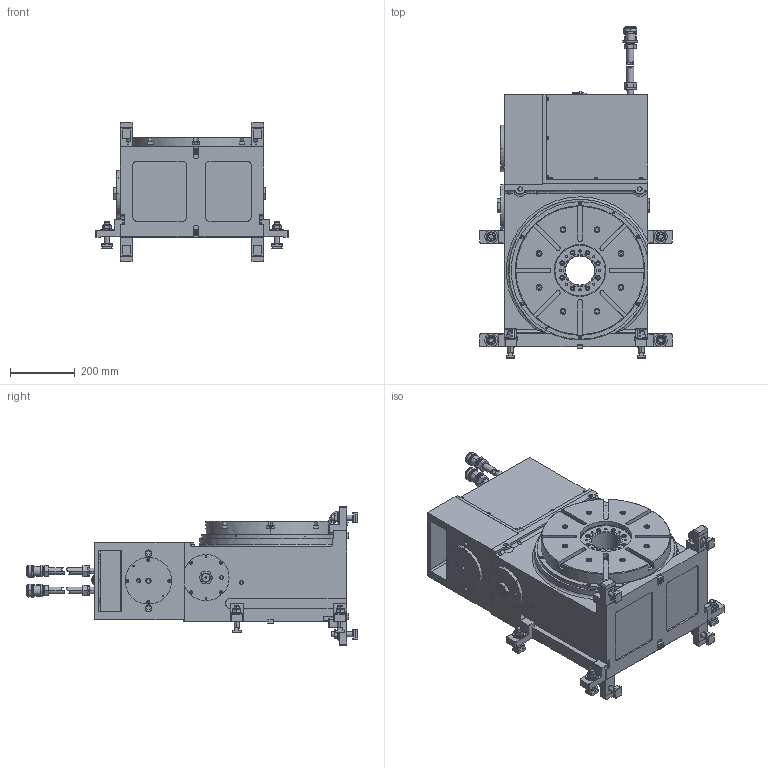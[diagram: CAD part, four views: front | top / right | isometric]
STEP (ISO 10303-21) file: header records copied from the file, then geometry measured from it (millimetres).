
FILE_DESCRIPTION (( 'STEP AP203' ), '1' );
FILE_NAME ('15161562 MDE400L-19.STEP', '2020-12-05T05:37:23', ( '' ), ( '' ), 'SwSTEP 2.0', 'SolidWorks 2019', '' );
FILE_SCHEMA (( 'CONFIG_CONTROL_DESIGN' ));
Products named in the file (1): 15161562 MDE400L-19
Bounding box: 595 x 1026.3 x 430 mm (x, y, z)
Surface area: 2533884.3 mm2 (no closed solid volume)
Topology: 0 solids, 194 shells, 2161 faces, 6867 edges, 4758 vertices
Faces by surface type: plane 998, cylinder 730, cone 305, bspline 82, torus 46
Entity records: 83759 total; most frequent: CARTESIAN_POINT 24374, DIRECTION 12580, ORIENTED_EDGE 10880, EDGE_CURVE 6847, VERTEX_POINT 4758, AXIS2_PLACEMENT_3D 4446, VECTOR 3688, LINE 3688
